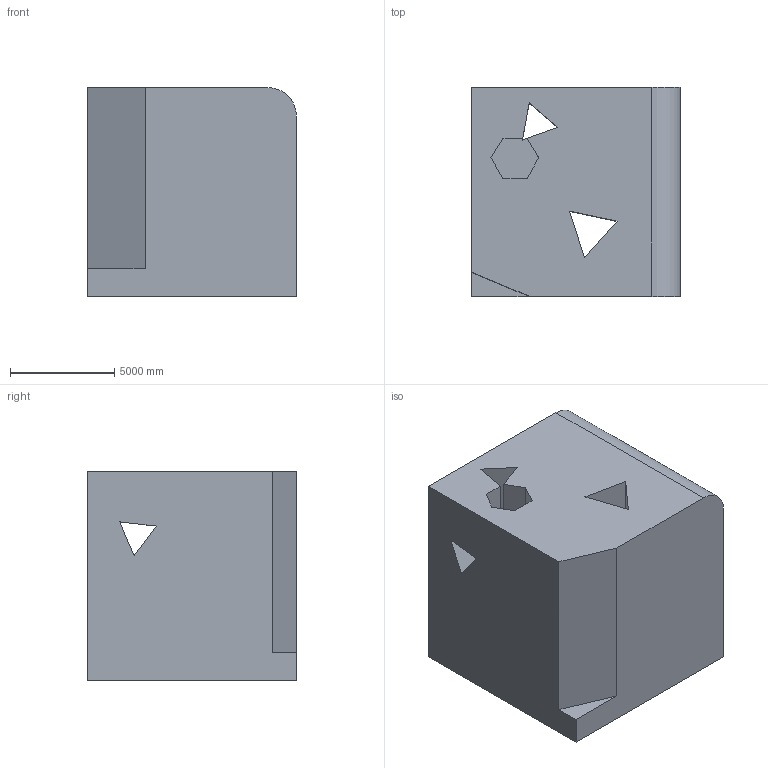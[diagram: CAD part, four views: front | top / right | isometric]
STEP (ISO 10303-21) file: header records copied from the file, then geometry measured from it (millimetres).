
FILE_DESCRIPTION (( 'STEP AP203' ), '1' );
FILE_NAME ('134.STEP', '2022-08-31T14:21:53', ( 'user' ), ( '' ), 'SwSTEP 2.0', 'SolidWorks 2021', '' );
FILE_SCHEMA (( 'CONFIG_CONTROL_DESIGN' ));
Length unit declared in the file: centimetre
Products named in the file (1): 134
Bounding box: 10000 x 10000 x 10000 mm (x, y, z)
Volume: 888936286061.5 mm3; surface area: 823364588.5 mm2
Topology: 1 solids, 1 shells, 37 faces, 108 edges, 72 vertices
Faces by surface type: plane 36, cylinder 1
Entity records: 1297 total; most frequent: CARTESIAN_POINT 218, ORIENTED_EDGE 216, DIRECTION 186, EDGE_CURVE 108, VECTOR 106, LINE 106, VERTEX_POINT 72, EDGE_LOOP 44
